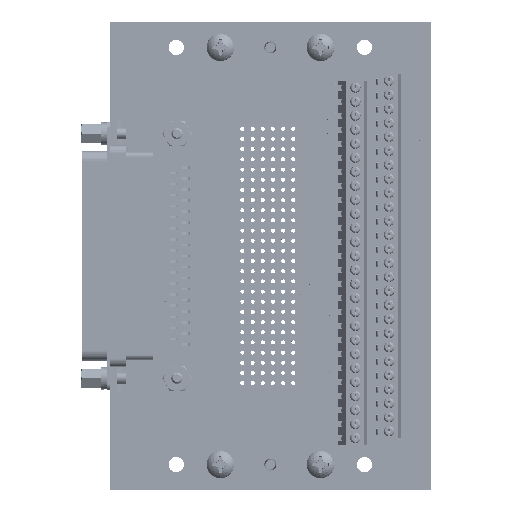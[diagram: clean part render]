
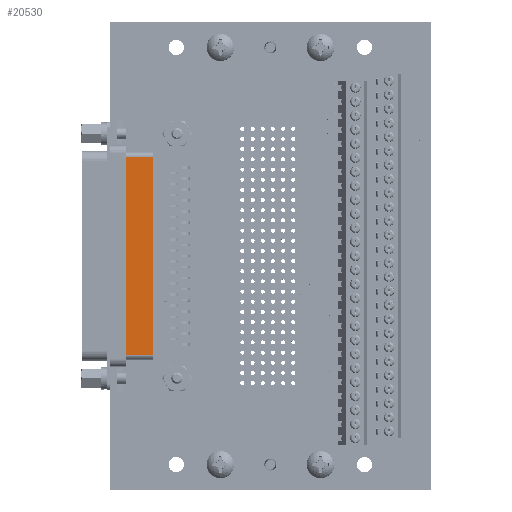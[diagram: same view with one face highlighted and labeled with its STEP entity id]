
A CAD part, top view. The second image highlights one B-rep face of the part: STEP entity #20530.
In plain terms, the highlighted planar face has unit normal (0, 0, 1) as drawn and (0, 1, 0) by its records, which use the part's own axes.
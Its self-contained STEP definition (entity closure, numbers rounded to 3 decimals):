
#20530 = ADVANCED_FACE ( 'NONE', ( #336221 ), #237351, .T. ) ;
#21991 = DIRECTION ( 'NONE',  ( 0., 0., 1. ) ) ;
#35215 = EDGE_CURVE ( 'NONE', #377746, #154756, #386398, .T. ) ;
#36902 = VECTOR ( 'NONE', #196393, 1000. ) ;
#38707 = CARTESIAN_POINT ( 'NONE',  ( -24.689, 5.016, -17.714 ) ) ;
#49672 = ORIENTED_EDGE ( 'NONE', *, *, #35215, .T. ) ;
#56421 = DIRECTION ( 'NONE',  ( 0., 0., 1. ) ) ;
#67167 = VECTOR ( 'NONE', #186274, 1000. ) ;
#67944 = EDGE_CURVE ( 'NONE', #377746, #407222, #468983, .T. ) ;
#98908 = VECTOR ( 'NONE', #21991, 1000. ) ;
#109852 = CARTESIAN_POINT ( 'NONE',  ( -24.689, 5.016, -10.918 ) ) ;
#127055 = EDGE_CURVE ( 'NONE', #407222, #168458, #419549, .T. ) ;
#141464 = CARTESIAN_POINT ( 'NONE',  ( 24.689, 5.016, -17.714 ) ) ;
#153705 = CARTESIAN_POINT ( 'NONE',  ( 0., 5.016, -17.714 ) ) ;
#154756 = VERTEX_POINT ( 'NONE', #109852 ) ;
#168458 = VERTEX_POINT ( 'NONE', #301243 ) ;
#186274 = DIRECTION ( 'NONE',  ( 1., 0., 0. ) ) ;
#188298 = LINE ( 'NONE', #210447, #246361 ) ;
#196393 = DIRECTION ( 'NONE',  ( 0., 0., 1. ) ) ;
#210447 = CARTESIAN_POINT ( 'NONE',  ( -24.689, 5.016, -10.918 ) ) ;
#237351 = PLANE ( 'NONE',  #475211 ) ;
#246361 = VECTOR ( 'NONE', #396042, 1000. ) ;
#254797 = ORIENTED_EDGE ( 'NONE', *, *, #127055, .F. ) ;
#269267 = EDGE_CURVE ( 'NONE', #154756, #168458, #188298, .T. ) ;
#274706 = ORIENTED_EDGE ( 'NONE', *, *, #269267, .T. ) ;
#279627 = DIRECTION ( 'NONE',  ( 0., 1., 0. ) ) ;
#301243 = CARTESIAN_POINT ( 'NONE',  ( 24.689, 5.016, -10.918 ) ) ;
#321471 = EDGE_LOOP ( 'NONE', ( #49672, #274706, #254797, #394455 ) ) ;
#336221 = FACE_OUTER_BOUND ( 'NONE', #321471, .T. ) ;
#377746 = VERTEX_POINT ( 'NONE', #38707 ) ;
#380409 = CARTESIAN_POINT ( 'NONE',  ( -24.689, 5.016, -10.918 ) ) ;
#386398 = LINE ( 'NONE', #380409, #36902 ) ;
#394455 = ORIENTED_EDGE ( 'NONE', *, *, #67944, .F. ) ;
#396042 = DIRECTION ( 'NONE',  ( 1., 0., 0. ) ) ;
#407222 = VERTEX_POINT ( 'NONE', #141464 ) ;
#419549 = LINE ( 'NONE', #472939, #98908 ) ;
#468311 = CARTESIAN_POINT ( 'NONE',  ( -24.689, 5.016, -10.918 ) ) ;
#468983 = LINE ( 'NONE', #153705, #67167 ) ;
#472939 = CARTESIAN_POINT ( 'NONE',  ( 24.689, 5.016, -10.918 ) ) ;
#475211 = AXIS2_PLACEMENT_3D ( 'NONE', #468311, #279627, #56421 ) ;
